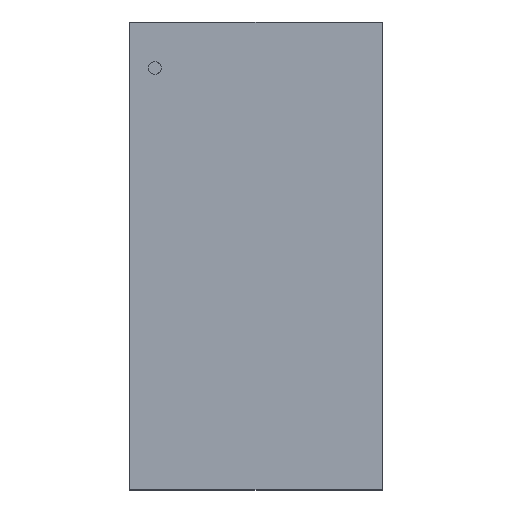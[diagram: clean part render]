
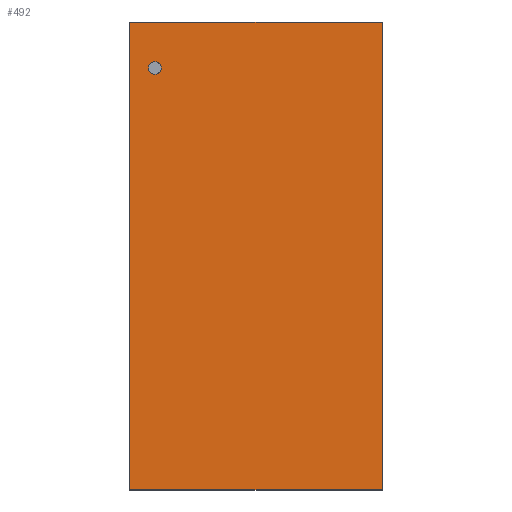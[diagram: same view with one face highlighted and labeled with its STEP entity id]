
A CAD part, top view. The second image highlights one B-rep face of the part: STEP entity #492.
In plain terms, the highlighted planar face has unit normal (0, 0, 1).
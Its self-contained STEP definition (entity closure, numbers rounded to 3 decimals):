
#268=CARTESIAN_POINT('',(0.673,-1.245,0.508));
#267=VERTEX_POINT('',#268);
#278=CARTESIAN_POINT('',(-0.673,-1.245,0.508));
#277=VERTEX_POINT('',#278);
#276=EDGE_CURVE('',#277,#267,#281,.T.);
#281=LINE('',#278,#283);
#283=VECTOR('',#284,1.346);
#284=DIRECTION('',(1.0,0.0,0.0));
#317=CARTESIAN_POINT('',(0.673,1.245,0.508));
#316=VERTEX_POINT('',#317);
#325=EDGE_CURVE('',#267,#316,#330,.T.);
#330=LINE('',#268,#332);
#332=VECTOR('',#333,2.489);
#333=DIRECTION('',(0.0,1.0,0.0));
#366=CARTESIAN_POINT('',(-0.673,1.245,0.508));
#365=VERTEX_POINT('',#366);
#374=EDGE_CURVE('',#316,#365,#379,.T.);
#379=LINE('',#317,#381);
#381=VECTOR('',#382,1.346);
#382=DIRECTION('',(-1.0,0.0,0.0));
#423=EDGE_CURVE('',#365,#277,#428,.T.);
#428=LINE('',#366,#430);
#430=VECTOR('',#431,2.489);
#431=DIRECTION('',(0.0,-1.0,0.0));
#492=ADVANCED_FACE('',(#498),#493,.T.);
#493=PLANE('',#494);
#494=AXIS2_PLACEMENT_3D('',#495,#496,#497);
#495=CARTESIAN_POINT('',(-0.673,-1.245,0.508));
#496=DIRECTION('',(0.0,0.0,1.0));
#497=DIRECTION('',(0.,1.,0.));
#498=FACE_OUTER_BOUND('',#499,.T.);
#499=EDGE_LOOP('',(#500,#510,#520,#530));
#500=ORIENTED_EDGE('',*,*,#276,.T.);
#510=ORIENTED_EDGE('',*,*,#325,.T.);
#520=ORIENTED_EDGE('',*,*,#374,.T.);
#530=ORIENTED_EDGE('',*,*,#423,.T.);
